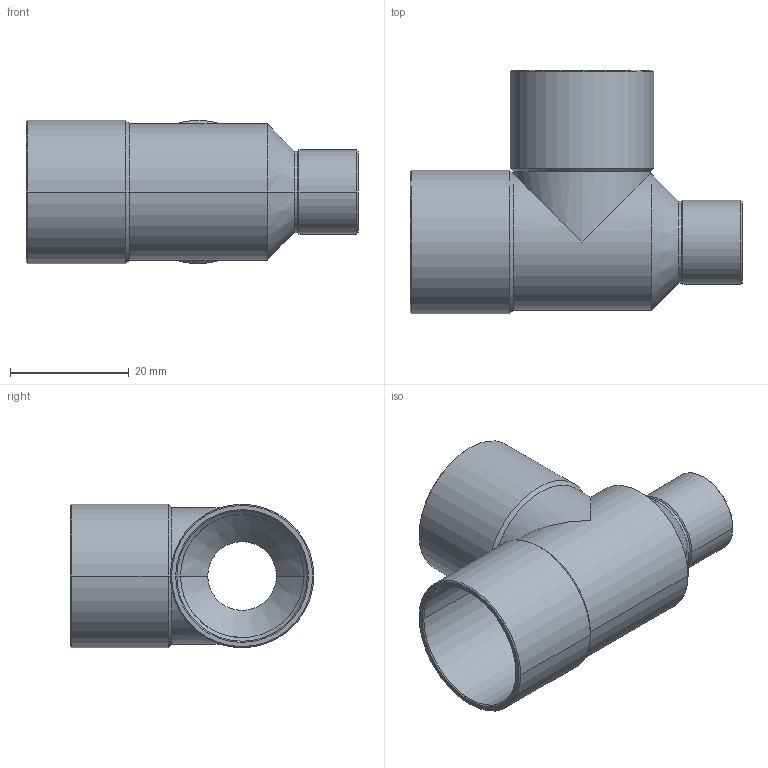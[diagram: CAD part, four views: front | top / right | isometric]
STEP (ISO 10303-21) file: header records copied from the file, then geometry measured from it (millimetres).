
FILE_DESCRIPTION((''),'2;1');
FILE_NAME('P:\Bouwmaten\z-maattekeningen 3D\5000\5130\5130222212.stp','2005-10-26T11:53:51',('Kris'),(''),'Autodesk Inventor 8','Autodesk Inventor 8','');
FILE_SCHEMA(('AUTOMOTIVE_DESIGN { 1 0 10303 214 1 1 1 1 }'));
Length unit declared in the file: millimetre
Products named in the file (1): 5130222212
Bounding box: 56 x 41.1 x 24.2 mm (x, y, z)
Volume: 5192.9 mm3; surface area: 9740.1 mm2
Topology: 1 solids, 1 shells, 55 faces, 118 edges, 64 vertices
Faces by surface type: cone 28, cylinder 24, plane 3
Entity records: 1495 total; most frequent: DIRECTION 294, CARTESIAN_POINT 238, ORIENTED_EDGE 236, AXIS2_PLACEMENT_3D 120, EDGE_CURVE 118, VERTEX_POINT 64, EDGE_LOOP 58, CIRCLE 56
